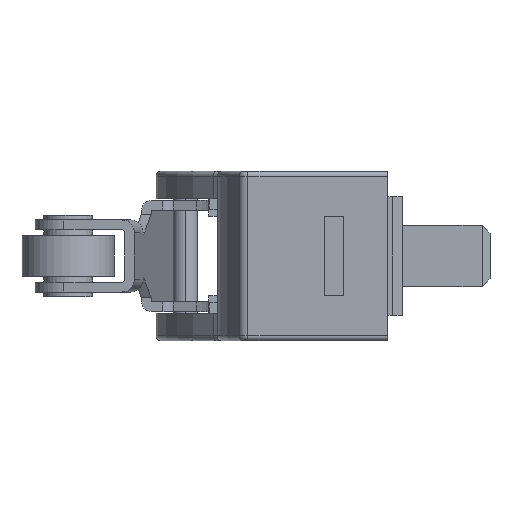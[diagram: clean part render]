
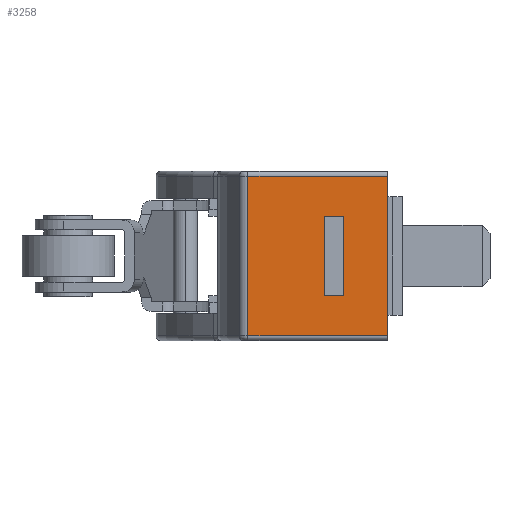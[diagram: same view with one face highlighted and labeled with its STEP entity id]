
A CAD part, left-side view. The second image highlights one B-rep face of the part: STEP entity #3258.
In plain terms, the highlighted planar face has unit normal (-1, 0, 0).
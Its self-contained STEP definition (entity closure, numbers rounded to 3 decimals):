
#3128 = ORIENTED_EDGE ( 'NONE', *, *, #3130, .T. ) ;
#3130 = EDGE_CURVE ( 'NONE', #3264, #3161, #16387, .T. ) ;
#3161 = VERTEX_POINT ( 'NONE', #14577 ) ;
#3162 = ORIENTED_EDGE ( 'NONE', *, *, #3163, .F. ) ;
#3163 = EDGE_CURVE ( 'NONE', #3164, #3161, #14695, .T. ) ;
#3164 = VERTEX_POINT ( 'NONE', #14639 ) ;
#3165 = ORIENTED_EDGE ( 'NONE', *, *, #3167, .T. ) ;
#3167 = EDGE_CURVE ( 'NONE', #3164, #3263, #14780, .T. ) ;
#3171 = EDGE_LOOP ( 'NONE', ( #3173, #3249, #3254, #3178 ) ) ;
#3173 = ORIENTED_EDGE ( 'NONE', *, *, #3174, .T. ) ;
#3174 = EDGE_CURVE ( 'NONE', #3175, #3176, #14781, .T. ) ;
#3175 = VERTEX_POINT ( 'NONE', #14638 ) ;
#3176 = VERTEX_POINT ( 'NONE', #14637 ) ;
#3177 = VERTEX_POINT ( 'NONE', #14576 ) ;
#3178 = ORIENTED_EDGE ( 'NONE', *, *, #3180, .T. ) ;
#3180 = EDGE_CURVE ( 'NONE', #3177, #3175, #14729, .T. ) ;
#3249 = ORIENTED_EDGE ( 'NONE', *, *, #3251, .T. ) ;
#3251 = EDGE_CURVE ( 'NONE', #3176, #3253, #14557, .T. ) ;
#3253 = VERTEX_POINT ( 'NONE', #14553 ) ;
#3254 = ORIENTED_EDGE ( 'NONE', *, *, #3255, .T. ) ;
#3255 = EDGE_CURVE ( 'NONE', #3253, #3177, #14548, .T. ) ;
#3258 = ADVANCED_FACE ( 'NONE', ( #14541, #14746 ), #14550, .F. ) ;
#3260 = ORIENTED_EDGE ( 'NONE', *, *, #3262, .T. ) ;
#3262 = EDGE_CURVE ( 'NONE', #3263, #3264, #14741, .T. ) ;
#3263 = VERTEX_POINT ( 'NONE', #14737 ) ;
#3264 = VERTEX_POINT ( 'NONE', #14736 ) ;
#3418 = EDGE_LOOP ( 'NONE', ( #3260, #3128, #3162, #3165 ) ) ;
#14541 = FACE_OUTER_BOUND ( 'NONE', #3418, .T. ) ;
#14543 = DIRECTION ( 'NONE',  ( 0., 1., 0. ) ) ;
#14545 = VECTOR ( 'NONE', #14543, 1000. ) ;
#14546 = CARTESIAN_POINT ( 'NONE',  ( -35.2, 2.7, -4.1 ) ) ;
#14548 = LINE ( 'NONE', #14546, #14545 ) ;
#14550 = PLANE ( 'NONE',  #14745 ) ;
#14553 = CARTESIAN_POINT ( 'NONE',  ( -35.2, 0.7, -4.1 ) ) ;
#14554 = DIRECTION ( 'NONE',  ( 0., 0., -1. ) ) ;
#14555 = VECTOR ( 'NONE', #14554, 1000. ) ;
#14556 = CARTESIAN_POINT ( 'NONE',  ( -35.2, 0.7, 4.1 ) ) ;
#14557 = LINE ( 'NONE', #14556, #14555 ) ;
#14576 = CARTESIAN_POINT ( 'NONE',  ( -35.2, 2.7, -4.1 ) ) ;
#14577 = CARTESIAN_POINT ( 'NONE',  ( -35.2, -3.8, -8.2 ) ) ;
#14624 = DIRECTION ( 'NONE',  ( 0., 1., 0. ) ) ;
#14625 = VECTOR ( 'NONE', #14624, 1000. ) ;
#14637 = CARTESIAN_POINT ( 'NONE',  ( -35.2, 0.7, 4.1 ) ) ;
#14638 = CARTESIAN_POINT ( 'NONE',  ( -35.2, 2.7, 4.1 ) ) ;
#14639 = CARTESIAN_POINT ( 'NONE',  ( -35.2, -3.8, 8.2 ) ) ;
#14640 = VECTOR ( 'NONE', #14693, 1000. ) ;
#14693 = DIRECTION ( 'NONE',  ( 0., 0., -1. ) ) ;
#14694 = CARTESIAN_POINT ( 'NONE',  ( -35.2, -3.8, 8.7 ) ) ;
#14695 = LINE ( 'NONE', #14694, #14640 ) ;
#14727 = VECTOR ( 'NONE', #14789, 1000. ) ;
#14728 = CARTESIAN_POINT ( 'NONE',  ( -35.2, 2.7, 4.1 ) ) ;
#14729 = LINE ( 'NONE', #14728, #14727 ) ;
#14736 = CARTESIAN_POINT ( 'NONE',  ( -35.2, 10.561, -8.2 ) ) ;
#14737 = CARTESIAN_POINT ( 'NONE',  ( -35.2, 10.561, 8.2 ) ) ;
#14738 = DIRECTION ( 'NONE',  ( 0., 0., -1. ) ) ;
#14739 = VECTOR ( 'NONE', #14738, 1000. ) ;
#14740 = CARTESIAN_POINT ( 'NONE',  ( -35.2, 10.561, 8.7 ) ) ;
#14741 = LINE ( 'NONE', #14740, #14739 ) ;
#14742 = DIRECTION ( 'NONE',  ( 0., 0., -1. ) ) ;
#14743 = DIRECTION ( 'NONE',  ( 1., 0., 0. ) ) ;
#14744 = CARTESIAN_POINT ( 'NONE',  ( -35.2, 10.561, 8.7 ) ) ;
#14745 = AXIS2_PLACEMENT_3D ( 'NONE', #14744, #14743, #14742 ) ;
#14746 = FACE_BOUND ( 'NONE', #3171, .T. ) ;
#14779 = CARTESIAN_POINT ( 'NONE',  ( -35.2, 10.561, 8.2 ) ) ;
#14780 = LINE ( 'NONE', #14779, #14625 ) ;
#14781 = LINE ( 'NONE', #14785, #14784 ) ;
#14783 = DIRECTION ( 'NONE',  ( 0., -1., 0. ) ) ;
#14784 = VECTOR ( 'NONE', #14783, 1000. ) ;
#14785 = CARTESIAN_POINT ( 'NONE',  ( -35.2, 2.7, 4.1 ) ) ;
#14789 = DIRECTION ( 'NONE',  ( 0., 0., 1. ) ) ;
#16384 = DIRECTION ( 'NONE',  ( 0., -1., 0. ) ) ;
#16385 = VECTOR ( 'NONE', #16384, 1000. ) ;
#16386 = CARTESIAN_POINT ( 'NONE',  ( -35.2, 10.561, -8.2 ) ) ;
#16387 = LINE ( 'NONE', #16386, #16385 ) ;
